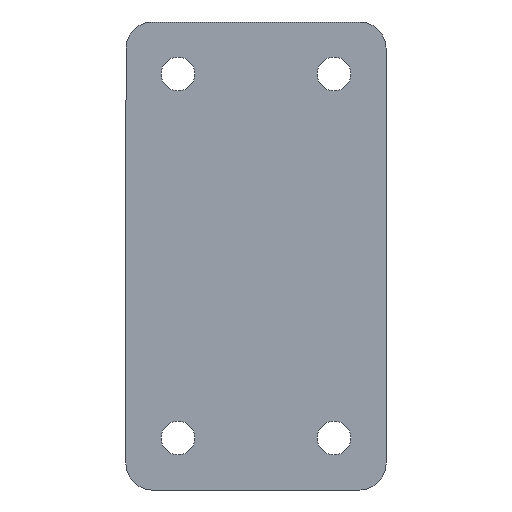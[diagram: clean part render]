
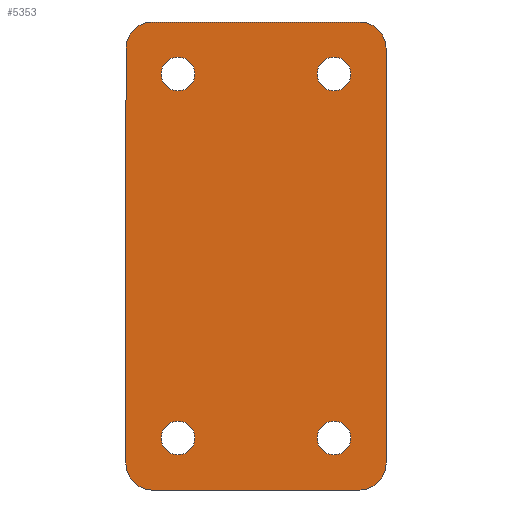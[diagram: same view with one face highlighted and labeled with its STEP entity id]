
A CAD part, front view. The second image highlights one B-rep face of the part: STEP entity #5353.
In plain terms, the highlighted planar face has unit normal (0, -1, 0).
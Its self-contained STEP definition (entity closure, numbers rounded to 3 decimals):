
#84 = AXIS2_PLACEMENT_3D ( 'NONE', #5961, #2087, #2494 ) ;
#105 = DIRECTION ( 'NONE',  ( -1., 0., 0. ) ) ;
#117 = FACE_BOUND ( 'NONE', #3514, .T. ) ;
#147 = ORIENTED_EDGE ( 'NONE', *, *, #1572, .T. ) ;
#166 = CIRCLE ( 'NONE', #3085, 10. ) ;
#400 = CARTESIAN_POINT ( 'NONE',  ( -30., -5., 63.5 ) ) ;
#436 = ORIENTED_EDGE ( 'NONE', *, *, #4605, .T. ) ;
#442 = AXIS2_PLACEMENT_3D ( 'NONE', #5127, #6062, #3106 ) ;
#499 = DIRECTION ( 'NONE',  ( 0., 0., 1. ) ) ;
#577 = ORIENTED_EDGE ( 'NONE', *, *, #4213, .T. ) ;
#595 = VERTEX_POINT ( 'NONE', #1498 ) ;
#634 = EDGE_CURVE ( 'NONE', #6066, #3408, #1984, .T. ) ;
#683 = VECTOR ( 'NONE', #105, 1000. ) ;
#737 = DIRECTION ( 'NONE',  ( 0., 1., 0. ) ) ;
#778 = CARTESIAN_POINT ( 'NONE',  ( 40., -5., 80. ) ) ;
#812 = AXIS2_PLACEMENT_3D ( 'NONE', #3400, #2937, #954 ) ;
#845 = CARTESIAN_POINT ( 'NONE',  ( -30., -5., 70. ) ) ;
#870 = FACE_BOUND ( 'NONE', #5142, .T. ) ;
#891 = VERTEX_POINT ( 'NONE', #2582 ) ;
#954 = DIRECTION ( 'NONE',  ( 0., 0., 1. ) ) ;
#1041 = DIRECTION ( 'NONE',  ( 0., 0., 1. ) ) ;
#1042 = EDGE_CURVE ( 'NONE', #5893, #891, #4688, .T. ) ;
#1078 = CARTESIAN_POINT ( 'NONE',  ( -50., -5., 80. ) ) ;
#1216 = LINE ( 'NONE', #5048, #683 ) ;
#1225 = CIRCLE ( 'NONE', #5051, 6.5 ) ;
#1336 = EDGE_LOOP ( 'NONE', ( #6344, #1595 ) ) ;
#1404 = CARTESIAN_POINT ( 'NONE',  ( 40., -5., 90. ) ) ;
#1456 = DIRECTION ( 'NONE',  ( 0., 0., 1. ) ) ;
#1472 = AXIS2_PLACEMENT_3D ( 'NONE', #4201, #5277, #3247 ) ;
#1475 = CARTESIAN_POINT ( 'NONE',  ( 30., -5., -70. ) ) ;
#1479 = DIRECTION ( 'NONE',  ( 0., 0., -1. ) ) ;
#1498 = CARTESIAN_POINT ( 'NONE',  ( -30., -5., 76.5 ) ) ;
#1558 = DIRECTION ( 'NONE',  ( 0., 0., 1. ) ) ;
#1572 = EDGE_CURVE ( 'NONE', #2366, #4955, #166, .T. ) ;
#1595 = ORIENTED_EDGE ( 'NONE', *, *, #634, .T. ) ;
#1607 = AXIS2_PLACEMENT_3D ( 'NONE', #845, #2790, #4791 ) ;
#1850 = CIRCLE ( 'NONE', #6135, 6.5 ) ;
#1895 = CARTESIAN_POINT ( 'NONE',  ( -30., -5., -76.5 ) ) ;
#1984 = CIRCLE ( 'NONE', #5646, 6.5 ) ;
#2087 = DIRECTION ( 'NONE',  ( 0., 1., 0. ) ) ;
#2127 = CARTESIAN_POINT ( 'NONE',  ( -50., -5., -80. ) ) ;
#2129 = VERTEX_POINT ( 'NONE', #4879 ) ;
#2199 = ORIENTED_EDGE ( 'NONE', *, *, #3295, .F. ) ;
#2233 = EDGE_CURVE ( 'NONE', #5893, #4955, #1216, .T. ) ;
#2265 = DIRECTION ( 'NONE',  ( 0., -1., 0. ) ) ;
#2294 = AXIS2_PLACEMENT_3D ( 'NONE', #2666, #737, #1558 ) ;
#2360 = ORIENTED_EDGE ( 'NONE', *, *, #3564, .T. ) ;
#2363 = CARTESIAN_POINT ( 'NONE',  ( 30., -5., 70. ) ) ;
#2366 = VERTEX_POINT ( 'NONE', #2127 ) ;
#2378 = CARTESIAN_POINT ( 'NONE',  ( -40., -5., 90. ) ) ;
#2441 = EDGE_LOOP ( 'NONE', ( #3352, #5546 ) ) ;
#2474 = LINE ( 'NONE', #4960, #4097 ) ;
#2494 = DIRECTION ( 'NONE',  ( 0., 0., 1. ) ) ;
#2543 = CIRCLE ( 'NONE', #3358, 6.5 ) ;
#2553 = CIRCLE ( 'NONE', #1472, 6.5 ) ;
#2555 = DIRECTION ( 'NONE',  ( 0., 0., 1. ) ) ;
#2581 = FACE_OUTER_BOUND ( 'NONE', #3650, .T. ) ;
#2582 = CARTESIAN_POINT ( 'NONE',  ( 50., -5., -80. ) ) ;
#2617 = VERTEX_POINT ( 'NONE', #3758 ) ;
#2666 = CARTESIAN_POINT ( 'NONE',  ( -30., -5., 70. ) ) ;
#2790 = DIRECTION ( 'NONE',  ( 0., 1., 0. ) ) ;
#2828 = VERTEX_POINT ( 'NONE', #2378 ) ;
#2924 = CARTESIAN_POINT ( 'NONE',  ( -40., -5., -90. ) ) ;
#2937 = DIRECTION ( 'NONE',  ( 0., 1., 0. ) ) ;
#2988 = ORIENTED_EDGE ( 'NONE', *, *, #1042, .T. ) ;
#3085 = AXIS2_PLACEMENT_3D ( 'NONE', #3445, #5913, #3948 ) ;
#3106 = DIRECTION ( 'NONE',  ( 0., 0., 1. ) ) ;
#3137 = VERTEX_POINT ( 'NONE', #400 ) ;
#3153 = CIRCLE ( 'NONE', #442, 10. ) ;
#3157 = VECTOR ( 'NONE', #1479, 1000. ) ;
#3170 = CARTESIAN_POINT ( 'NONE',  ( 40., -5., -90. ) ) ;
#3208 = ORIENTED_EDGE ( 'NONE', *, *, #4754, .F. ) ;
#3247 = DIRECTION ( 'NONE',  ( 0., 0., 1. ) ) ;
#3295 = EDGE_CURVE ( 'NONE', #2366, #5221, #3379, .T. ) ;
#3339 = EDGE_CURVE ( 'NONE', #595, #3137, #3623, .T. ) ;
#3352 = ORIENTED_EDGE ( 'NONE', *, *, #4888, .T. ) ;
#3358 = AXIS2_PLACEMENT_3D ( 'NONE', #1475, #5878, #4910 ) ;
#3379 = LINE ( 'NONE', #3488, #4093 ) ;
#3400 = CARTESIAN_POINT ( 'NONE',  ( 0., -5., 0. ) ) ;
#3408 = VERTEX_POINT ( 'NONE', #4875 ) ;
#3432 = DIRECTION ( 'NONE',  ( 0., 1., 0. ) ) ;
#3445 = CARTESIAN_POINT ( 'NONE',  ( -40., -5., -80. ) ) ;
#3487 = AXIS2_PLACEMENT_3D ( 'NONE', #778, #2265, #4265 ) ;
#3488 = CARTESIAN_POINT ( 'NONE',  ( -50., -5., -90. ) ) ;
#3510 = DIRECTION ( 'NONE',  ( 0., -1., 0. ) ) ;
#3514 = EDGE_LOOP ( 'NONE', ( #4911, #5994 ) ) ;
#3564 = EDGE_CURVE ( 'NONE', #2828, #5221, #3153, .T. ) ;
#3574 = FACE_BOUND ( 'NONE', #1336, .T. ) ;
#3623 = CIRCLE ( 'NONE', #2294, 6.5 ) ;
#3650 = EDGE_LOOP ( 'NONE', ( #2199, #147, #6216, #2988, #3208, #436, #5986, #2360 ) ) ;
#3758 = CARTESIAN_POINT ( 'NONE',  ( 50., -5., 80. ) ) ;
#3826 = DIRECTION ( 'NONE',  ( 0., 0., 1. ) ) ;
#3852 = LINE ( 'NONE', #5515, #3157 ) ;
#3861 = PLANE ( 'NONE',  #812 ) ;
#3865 = DIRECTION ( 'NONE',  ( 0., 1., 0. ) ) ;
#3874 = FACE_BOUND ( 'NONE', #2441, .T. ) ;
#3948 = DIRECTION ( 'NONE',  ( 0., 0., 1. ) ) ;
#4016 = EDGE_CURVE ( 'NONE', #3408, #6066, #1225, .T. ) ;
#4093 = VECTOR ( 'NONE', #2555, 1000. ) ;
#4094 = EDGE_CURVE ( 'NONE', #2129, #4443, #2543, .T. ) ;
#4097 = VECTOR ( 'NONE', #4546, 1000. ) ;
#4201 = CARTESIAN_POINT ( 'NONE',  ( -30., -5., -70. ) ) ;
#4213 = EDGE_CURVE ( 'NONE', #6207, #6133, #6248, .T. ) ;
#4255 = EDGE_CURVE ( 'NONE', #2828, #5691, #2474, .T. ) ;
#4265 = DIRECTION ( 'NONE',  ( 0., 0., 1. ) ) ;
#4396 = CARTESIAN_POINT ( 'NONE',  ( -30., -5., -63.5 ) ) ;
#4430 = EDGE_CURVE ( 'NONE', #6133, #6207, #2553, .T. ) ;
#4443 = VERTEX_POINT ( 'NONE', #5191 ) ;
#4546 = DIRECTION ( 'NONE',  ( 1., 0., 0. ) ) ;
#4560 = CARTESIAN_POINT ( 'NONE',  ( 40., -5., -80. ) ) ;
#4605 = EDGE_CURVE ( 'NONE', #2617, #5691, #4785, .T. ) ;
#4688 = CIRCLE ( 'NONE', #5733, 10. ) ;
#4754 = EDGE_CURVE ( 'NONE', #2617, #891, #3852, .T. ) ;
#4785 = CIRCLE ( 'NONE', #3487, 10. ) ;
#4791 = DIRECTION ( 'NONE',  ( 0., 0., 1. ) ) ;
#4866 = CARTESIAN_POINT ( 'NONE',  ( 30., -5., 70. ) ) ;
#4875 = CARTESIAN_POINT ( 'NONE',  ( 30., -5., 76.5 ) ) ;
#4879 = CARTESIAN_POINT ( 'NONE',  ( 30., -5., -76.5 ) ) ;
#4888 = EDGE_CURVE ( 'NONE', #4443, #2129, #1850, .T. ) ;
#4910 = DIRECTION ( 'NONE',  ( 0., 0., 1. ) ) ;
#4911 = ORIENTED_EDGE ( 'NONE', *, *, #3339, .T. ) ;
#4915 = CARTESIAN_POINT ( 'NONE',  ( 30., -5., -70. ) ) ;
#4955 = VERTEX_POINT ( 'NONE', #2924 ) ;
#4960 = CARTESIAN_POINT ( 'NONE',  ( -50., -5., 90. ) ) ;
#5048 = CARTESIAN_POINT ( 'NONE',  ( -50., -5., -90. ) ) ;
#5051 = AXIS2_PLACEMENT_3D ( 'NONE', #4866, #6361, #1456 ) ;
#5090 = ORIENTED_EDGE ( 'NONE', *, *, #4430, .T. ) ;
#5127 = CARTESIAN_POINT ( 'NONE',  ( -40., -5., 80. ) ) ;
#5142 = EDGE_LOOP ( 'NONE', ( #5090, #577 ) ) ;
#5191 = CARTESIAN_POINT ( 'NONE',  ( 30., -5., -63.5 ) ) ;
#5221 = VERTEX_POINT ( 'NONE', #1078 ) ;
#5277 = DIRECTION ( 'NONE',  ( 0., 1., 0. ) ) ;
#5353 = ADVANCED_FACE ( 'NONE', ( #117, #3574, #3874, #870, #2581 ), #3861, .F. ) ;
#5515 = CARTESIAN_POINT ( 'NONE',  ( 50., -5., -90. ) ) ;
#5546 = ORIENTED_EDGE ( 'NONE', *, *, #4094, .T. ) ;
#5646 = AXIS2_PLACEMENT_3D ( 'NONE', #2363, #3865, #3826 ) ;
#5691 = VERTEX_POINT ( 'NONE', #1404 ) ;
#5733 = AXIS2_PLACEMENT_3D ( 'NONE', #4560, #3510, #1041 ) ;
#5791 = CARTESIAN_POINT ( 'NONE',  ( 30., -5., 63.5 ) ) ;
#5878 = DIRECTION ( 'NONE',  ( 0., 1., 0. ) ) ;
#5893 = VERTEX_POINT ( 'NONE', #3170 ) ;
#5913 = DIRECTION ( 'NONE',  ( 0., -1., 0. ) ) ;
#5961 = CARTESIAN_POINT ( 'NONE',  ( -30., -5., -70. ) ) ;
#5963 = CIRCLE ( 'NONE', #1607, 6.5 ) ;
#5986 = ORIENTED_EDGE ( 'NONE', *, *, #4255, .F. ) ;
#5994 = ORIENTED_EDGE ( 'NONE', *, *, #6005, .T. ) ;
#6005 = EDGE_CURVE ( 'NONE', #3137, #595, #5963, .T. ) ;
#6062 = DIRECTION ( 'NONE',  ( 0., -1., 0. ) ) ;
#6066 = VERTEX_POINT ( 'NONE', #5791 ) ;
#6133 = VERTEX_POINT ( 'NONE', #4396 ) ;
#6135 = AXIS2_PLACEMENT_3D ( 'NONE', #4915, #3432, #499 ) ;
#6207 = VERTEX_POINT ( 'NONE', #1895 ) ;
#6216 = ORIENTED_EDGE ( 'NONE', *, *, #2233, .F. ) ;
#6248 = CIRCLE ( 'NONE', #84, 6.5 ) ;
#6344 = ORIENTED_EDGE ( 'NONE', *, *, #4016, .T. ) ;
#6361 = DIRECTION ( 'NONE',  ( 0., 1., 0. ) ) ;
